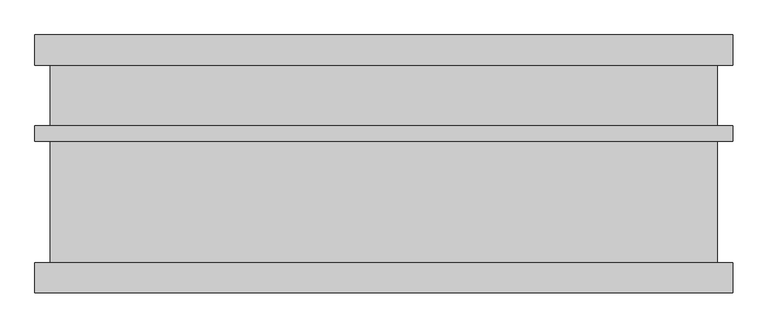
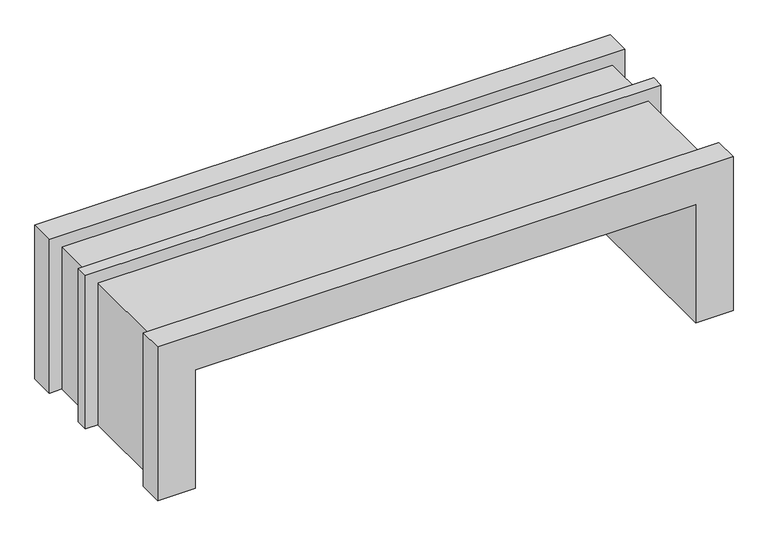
"""IFC4 building model written with IfcOpenShell, lengths in millimetres: proxy geometry, 花池 : 花池."""

from ifc_helpers import new_model, si_unit, origin, place, context, project, spatial, faceted_brep, source, transform, mapped, element, save


def generic_models_85c76053(model_context):
    return source(origin(), model_context, "Body", "Brep", [
        faceted_brep([(-1000.0, -700.0, 0.0), (-1150.0, -700.0, 0.0), (-1150.0, -600.0, 0.0), (-1100.0, -600.0, 0.0), (-1100.0, -200.0, 0.0), (-1150.0, -200.0, 0.0), (-1150.0, -150.0, 0.0), (-1100.0, -150.0, 0.0), (-1100.0, 50.0, 0.0), (-1150.0, 50.0, 0.0), (-1150.0, 150.0, 0.0), (1150.0, 150.0, 0.0), (1150.0, 50.0, 0.0), (1100.0, 50.0, 0.0), (1100.0, -150.0, 0.0), (1150.0, -150.0, 0.0), (1150.0, -200.0, 0.0), (1100.0, -200.0, 0.0), (1100.0, -600.0, 0.0), (1150.0, -600.0, 0.0), (1150.0, -700.0, 0.0), (1000.0, -700.0, 0.0), (1000.0, 0.0, 0.0), (-1000.0, 0.0, 0.0), (-1000.0, 0.0, 500.0), (-1000.0, -700.0, 500.0), (1000.0, 0.0, 500.0), (-1150.0, 150.0, 650.0), (1150.0, 150.0, 650.0), (-1150.0, 50.0, 650.0), (-1100.0, 50.0, 600.0), (1100.0, 50.0, 600.0), (1150.0, 50.0, 650.0), (-1100.0, -150.0, 600.0), (-1150.0, -150.0, 650.0), (1150.0, -150.0, 650.0), (1100.0, -150.0, 600.0), (-1150.0, -200.0, 650.0), (-1100.0, -200.0, 600.0), (1100.0, -200.0, 600.0), (1150.0, -200.0, 650.0), (-1100.0, -600.0, 600.0), (-1150.0, -600.0, 650.0), (1150.0, -600.0, 650.0), (1100.0, -600.0, 600.0), (-1150.0, -700.0, 650.0), (1000.0, -700.0, 500.0), (1150.0, -700.0, 650.0)], [[[0, 1, 2, 3, 4, 5, 6, 7, 8, 9, 10, 11, 12, 13, 14, 15, 16, 17, 18, 19, 20, 21, 22, 23]], [[23, 24, 25, 0]], [[22, 26, 24, 23]], [[10, 27, 28, 11]], [[9, 29, 27, 10]], [[8, 30, 31, 13, 12, 32, 29, 9]], [[7, 33, 30, 8]], [[6, 34, 35, 15, 14, 36, 33, 7]], [[5, 37, 34, 6]], [[4, 38, 39, 17, 16, 40, 37, 5]], [[3, 41, 38, 4]], [[2, 42, 43, 19, 18, 44, 41, 3]], [[1, 45, 42, 2]], [[0, 25, 46, 21, 20, 47, 45, 1]], [[24, 26, 46, 25]], [[29, 32, 28, 27]], [[33, 36, 31, 30]], [[37, 40, 35, 34]], [[41, 44, 39, 38]], [[45, 47, 43, 42]], [[26, 22, 21, 46]], [[32, 12, 11, 28]], [[36, 14, 13, 31]], [[40, 16, 15, 35]], [[44, 18, 17, 39]], [[47, 20, 19, 43]]]),
    ])


if __name__ == "__main__":
    model = new_model("IFC4")
    model_context = context("Model", 3, world=origin())
    ifc_project = project(units=[si_unit("LENGTHUNIT", "METRE", prefix="MILLI")], contexts=[model_context])
    site = spatial("IfcSite", under=ifc_project)
    building = spatial("IfcBuilding", under=site)
    placement = place(None, origin())
    generic_models_shape = generic_models_85c76053(model_context)
    element("IfcBuildingElementProxy", 1, Name="花池 : 花池", ObjectType="花池 : 花池", at=placement, inside=building, context=model_context, shape_type="MappedRepresentation", body=[
        mapped(generic_models_shape, transform((0.0, 0.0, 0.0), x_axis=(1.0, 0.0, 0.0), y_axis=(0.0, 1.0, 0.0), z_axis=(0.0, 0.0, 1.0))),
    ])
    save(model, "model.ifc")
